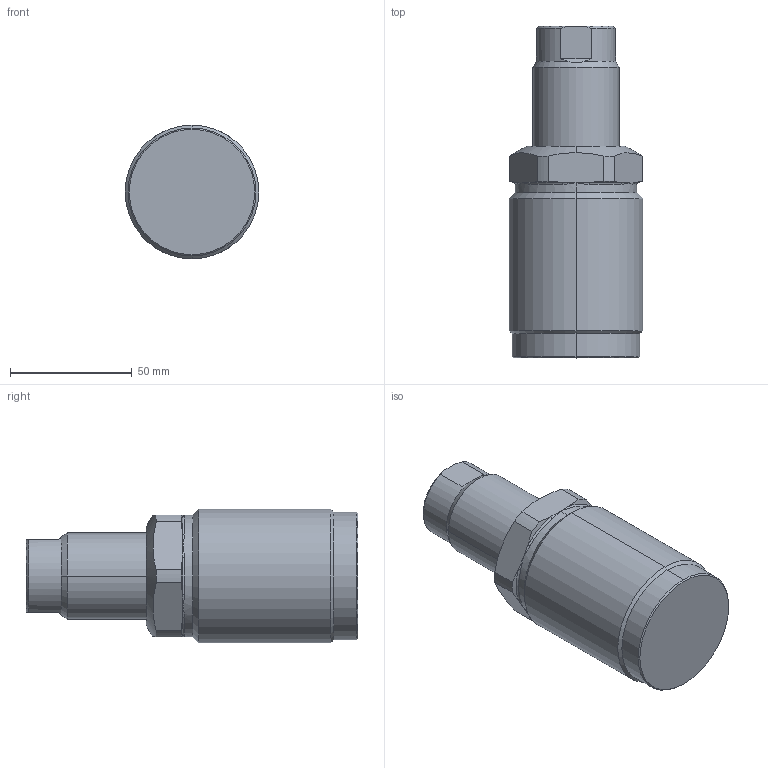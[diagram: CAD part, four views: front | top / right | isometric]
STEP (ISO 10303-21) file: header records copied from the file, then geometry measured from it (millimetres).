
FILE_DESCRIPTION((' '),'2;1');
FILE_NAME( 'TGM25-32.x_t.stp', '2024-08-27T13:43:53', (' '), ('--- Datakit www.datakit.com---'), ' Datakit CrossCadWare V2024.1 Dec 21 2023', 'Mastercam 2025', ' ');
FILE_SCHEMA(('AUTOMOTIVE_DESIGN { 1 0 10303 214 1 1 1 1 }'));
Length unit declared in the file: millimetre
Products named in the file (1): TGM25-32
Bounding box: 55 x 136.5 x 55 mm (x, y, z)
Volume: 209412.7 mm3; surface area: 30579.6 mm2
Topology: 2 solids, 2 shells, 79 faces, 194 edges, 109 vertices
Faces by surface type: cylinder 22, cone 22, plane 17, bspline 12, torus 6
Entity records: 4291 total; most frequent: CARTESIAN_POINT 2549, ORIENTED_EDGE 360, DIRECTION 352, EDGE_CURVE 180, AXIS2_PLACEMENT_3D 152, VERTEX_POINT 109, EDGE_LOOP 83, FACE_OUTER_BOUND 79
